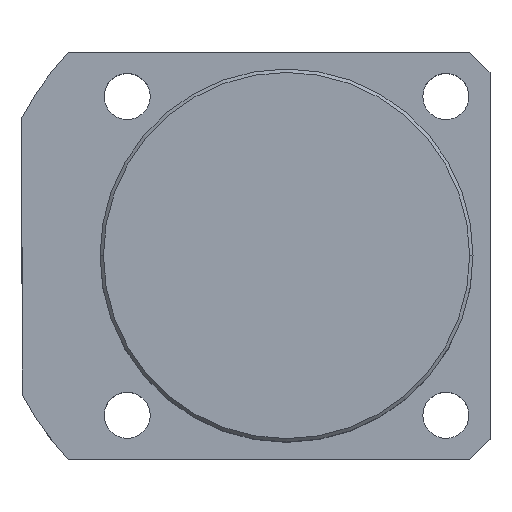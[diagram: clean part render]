
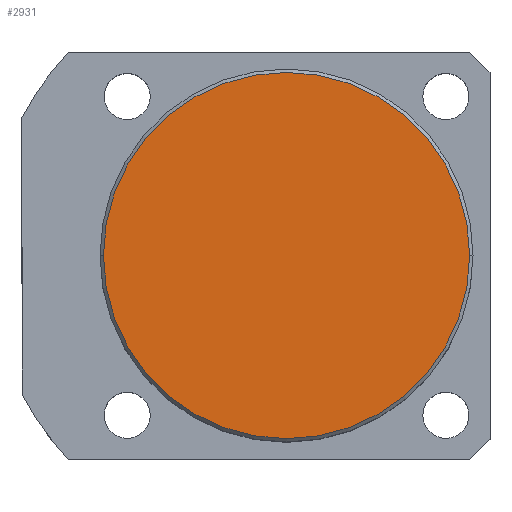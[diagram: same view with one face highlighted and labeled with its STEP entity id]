
A CAD part, top view. The second image highlights one B-rep face of the part: STEP entity #2931.
In plain terms, the highlighted planar face has unit normal (0, 0, 1).
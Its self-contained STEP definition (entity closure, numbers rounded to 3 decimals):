
#186 = VERTEX_POINT ( 'NONE', #4408 ) ;
#465 = ORIENTED_EDGE ( 'NONE', *, *, #5141, .T. ) ;
#537 = VERTEX_POINT ( 'NONE', #1662 ) ;
#571 = AXIS2_PLACEMENT_3D ( 'NONE', #999, #5016, #2646 ) ;
#999 = CARTESIAN_POINT ( 'NONE',  ( 0., 0., 40. ) ) ;
#1022 = DIRECTION ( 'NONE',  ( 0., 0., 1. ) ) ;
#1362 = PLANE ( 'NONE',  #571 ) ;
#1579 = AXIS2_PLACEMENT_3D ( 'NONE', #3408, #1022, #3809 ) ;
#1662 = CARTESIAN_POINT ( 'NONE',  ( 27., 0., 40. ) ) ;
#1757 = CARTESIAN_POINT ( 'NONE',  ( 0., 0., 40. ) ) ;
#2165 = DIRECTION ( 'NONE',  ( 1., 0., 0. ) ) ;
#2646 = DIRECTION ( 'NONE',  ( 1., 0., 0. ) ) ;
#2931 = ADVANCED_FACE ( 'NONE', ( #4804 ), #1362, .T. ) ;
#3131 = AXIS2_PLACEMENT_3D ( 'NONE', #1757, #4534, #2165 ) ;
#3408 = CARTESIAN_POINT ( 'NONE',  ( 0., 0., 40. ) ) ;
#3616 = EDGE_LOOP ( 'NONE', ( #4246, #465 ) ) ;
#3722 = CIRCLE ( 'NONE', #1579, 27. ) ;
#3809 = DIRECTION ( 'NONE',  ( 1., 0., 0. ) ) ;
#4246 = ORIENTED_EDGE ( 'NONE', *, *, #4585, .T. ) ;
#4408 = CARTESIAN_POINT ( 'NONE',  ( -27., 0., 40. ) ) ;
#4534 = DIRECTION ( 'NONE',  ( 0., 0., 1. ) ) ;
#4585 = EDGE_CURVE ( 'NONE', #186, #537, #4842, .T. ) ;
#4804 = FACE_OUTER_BOUND ( 'NONE', #3616, .T. ) ;
#4842 = CIRCLE ( 'NONE', #3131, 27. ) ;
#5016 = DIRECTION ( 'NONE',  ( 0., 0., 1. ) ) ;
#5141 = EDGE_CURVE ( 'NONE', #537, #186, #3722, .T. ) ;
